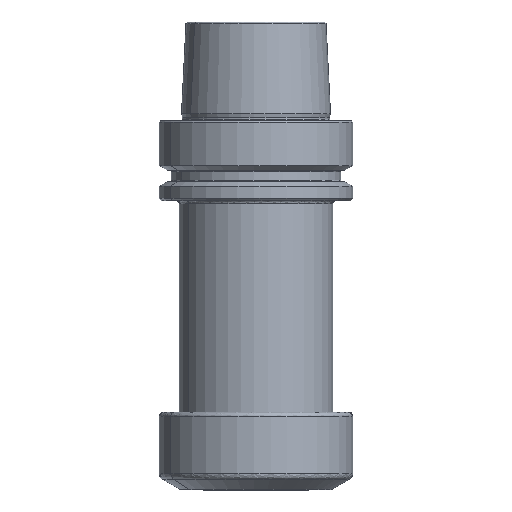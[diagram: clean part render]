
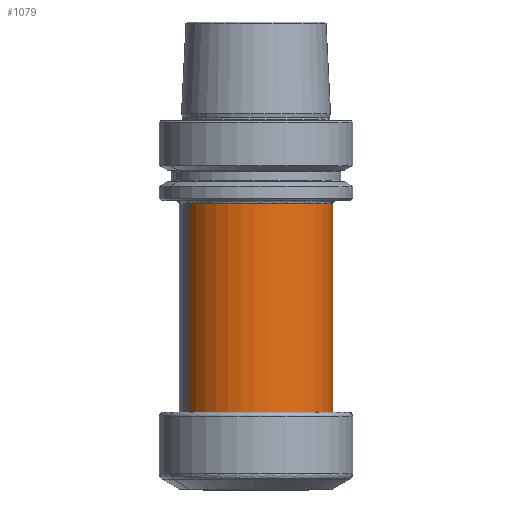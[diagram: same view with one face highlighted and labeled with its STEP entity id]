
A CAD part, left-side view. The second image highlights one B-rep face of the part: STEP entity #1079.
In plain terms, the highlighted face is a revolution surface.
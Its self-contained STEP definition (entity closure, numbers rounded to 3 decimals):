
#1017=AXIS2_PLACEMENT_3D('Circle Axis2P3D',#1015,#1016,$) ;
#1060=AXIS2_PLACEMENT_3D('Circle Axis2P3D',#1058,#1059,$) ;
#1012=CARTESIAN_POINT('Vertex',(-11.986,21.94,-27.)) ;
#1015=CARTESIAN_POINT('Axis2P3D Location',(0.,0.,-27.)) ;
#1019=CARTESIAN_POINT('Vertex',(11.986,-21.94,-27.)) ;
#1038=CARTESIAN_POINT('Control Point',(0.,25.,-95.566)) ;
#1039=CARTESIAN_POINT('Control Point',(0.,25.,-81.853)) ;
#1040=CARTESIAN_POINT('Control Point',(0.,25.,-68.14)) ;
#1041=CARTESIAN_POINT('Control Point',(0.,25.,-54.426)) ;
#1042=CARTESIAN_POINT('Control Point',(0.,25.,-40.713)) ;
#1043=CARTESIAN_POINT('Control Point',(0.,25.,-27.)) ;
#1044=CARTESIAN_POINT('Axis1P Location',(0.,0.,-43.965)) ;
#1049=CARTESIAN_POINT('Control Point',(-11.986,21.94,-95.566)) ;
#1050=CARTESIAN_POINT('Control Point',(-11.986,21.94,-81.853)) ;
#1051=CARTESIAN_POINT('Control Point',(-11.986,21.94,-68.14)) ;
#1052=CARTESIAN_POINT('Control Point',(-11.986,21.94,-54.426)) ;
#1053=CARTESIAN_POINT('Control Point',(-11.986,21.94,-40.713)) ;
#1054=CARTESIAN_POINT('Control Point',(-11.986,21.94,-27.)) ;
#1055=CARTESIAN_POINT('Vertex',(-11.986,21.94,-95.566)) ;
#1058=CARTESIAN_POINT('Axis2P3D Location',(0.,0.,-95.566)) ;
#1062=CARTESIAN_POINT('Vertex',(11.986,-21.94,-95.566)) ;
#1066=CARTESIAN_POINT('Control Point',(11.986,-21.94,-95.566)) ;
#1067=CARTESIAN_POINT('Control Point',(11.986,-21.94,-81.853)) ;
#1068=CARTESIAN_POINT('Control Point',(11.986,-21.94,-68.14)) ;
#1069=CARTESIAN_POINT('Control Point',(11.986,-21.94,-54.426)) ;
#1070=CARTESIAN_POINT('Control Point',(11.986,-21.94,-40.713)) ;
#1071=CARTESIAN_POINT('Control Point',(11.986,-21.94,-27.)) ;
#1016=DIRECTION('Axis2P3D Direction',(0.,0.,1.)) ;
#1045=DIRECTION('Axis1P Direction',(0.,0.,1.)) ;
#1059=DIRECTION('Axis2P3D Direction',(0.,0.,1.)) ;
#1046=AXIS1_PLACEMENT('Revolution Surface Axis1P',#1044,#1045) ;
#1074=ORIENTED_EDGE('',*,*,#1021,.F.) ;
#1075=ORIENTED_EDGE('',*,*,#1057,.T.) ;
#1076=ORIENTED_EDGE('',*,*,#1064,.T.) ;
#1077=ORIENTED_EDGE('',*,*,#1072,.F.) ;
#1079=ADVANCED_FACE('NOCUT',(#1078),#1047,.T.) ;
#1037=B_SPLINE_CURVE_WITH_KNOTS('',5,(#1038,#1039,#1040,#1041,#1042,#1043),.UNSPECIFIED.,.F.,.U.,(6,6),(169.694,238.26),.UNSPECIFIED.) ;
#1048=B_SPLINE_CURVE_WITH_KNOTS('',5,(#1049,#1050,#1051,#1052,#1053,#1054),.UNSPECIFIED.,.F.,.U.,(6,6),(169.694,238.26),.UNSPECIFIED.) ;
#1065=B_SPLINE_CURVE_WITH_KNOTS('',5,(#1066,#1067,#1068,#1069,#1070,#1071),.UNSPECIFIED.,.F.,.U.,(6,6),(169.694,238.26),.UNSPECIFIED.) ;
#1018=CIRCLE('generated circle',#1017,25.) ;
#1061=CIRCLE('generated circle',#1060,25.) ;
#1021=EDGE_CURVE('',#1013,#1020,#1018,.T.) ;
#1057=EDGE_CURVE('',#1013,#1056,#1048,.F.) ;
#1064=EDGE_CURVE('',#1056,#1063,#1061,.T.) ;
#1072=EDGE_CURVE('',#1020,#1063,#1065,.F.) ;
#1073=EDGE_LOOP('',(#1074,#1075,#1076,#1077)) ;
#1078=FACE_OUTER_BOUND('',#1073,.T.) ;
#1047=SURFACE_OF_REVOLUTION('Surface of Revolution',#1037,#1046) ;
#1013=VERTEX_POINT('',#1012) ;
#1020=VERTEX_POINT('',#1019) ;
#1056=VERTEX_POINT('',#1055) ;
#1063=VERTEX_POINT('',#1062) ;
